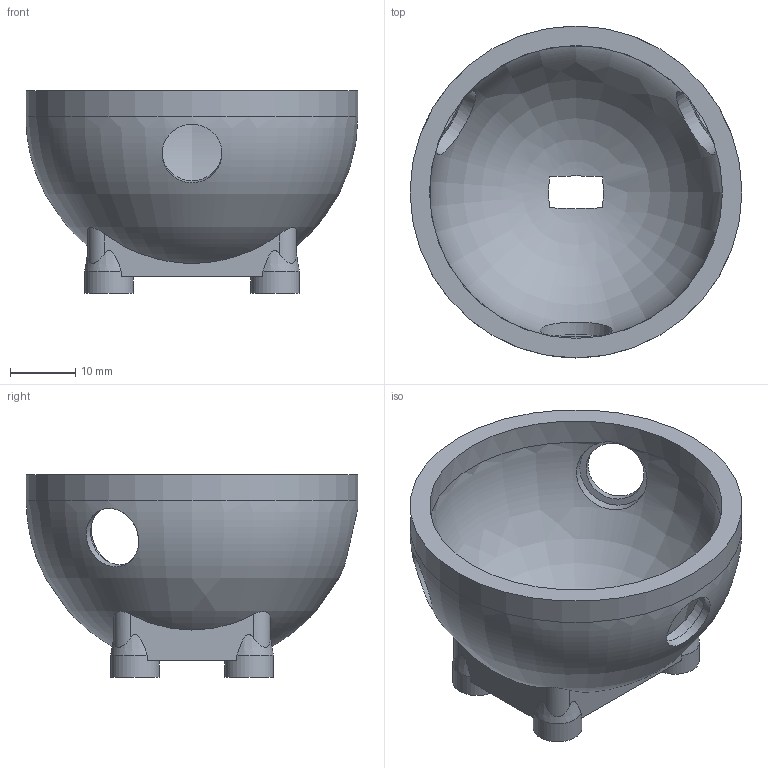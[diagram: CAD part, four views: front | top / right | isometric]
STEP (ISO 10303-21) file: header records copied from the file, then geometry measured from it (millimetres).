
FILE_DESCRIPTION(('Open CASCADE Model'),'2;1');
FILE_NAME('Open CASCADE Shape Model','2026-06-04T07:56:33',('Author'),( 'Open CASCADE'),'Open CASCADE STEP processor 7.6','Open CASCADE 7.6' ,'Unknown');
FILE_SCHEMA(('AP242_MANAGED_MODEL_BASED_3D_ENGINEERING_MIM_LF. {1 0 10303 442 1 1 4 }'));
Length unit declared in the file: millimetre
Products named in the file (1): Open CASCADE STEP translator 7.6 1
Bounding box: 51 x 51 x 31.1 mm (x, y, z)
Volume: 13388.4 mm3; surface area: 9786.2 mm2
Topology: 1 solids, 1 shells, 56 faces, 147 edges, 98 vertices
Faces by surface type: cylinder 24, plane 22, bspline 4, cone 4, revolution 2
Full cylindrical faces by diameter (mm): 3.5 x4, 7.5 x4, 9.2 x3, 11.2 x3, 45 x1, 51 x1
Entity records: 8395 total; most frequent: CARTESIAN_POINT 5568, DIRECTION 486, ORIENTED_EDGE 294, PCURVE 294, DEFINITIONAL_REPRESENTATION 294, LINE 236, VECTOR 236, EDGE_CURVE 147
